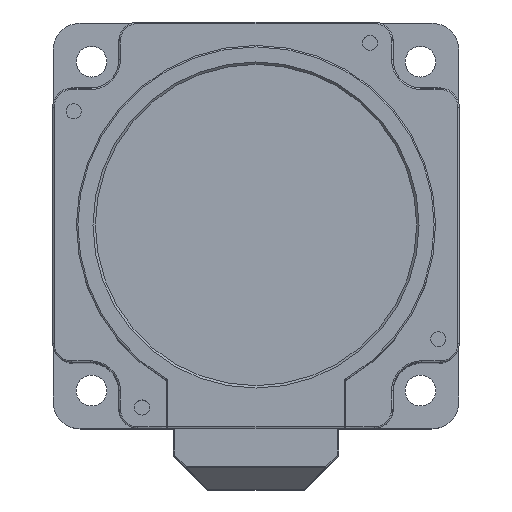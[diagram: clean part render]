
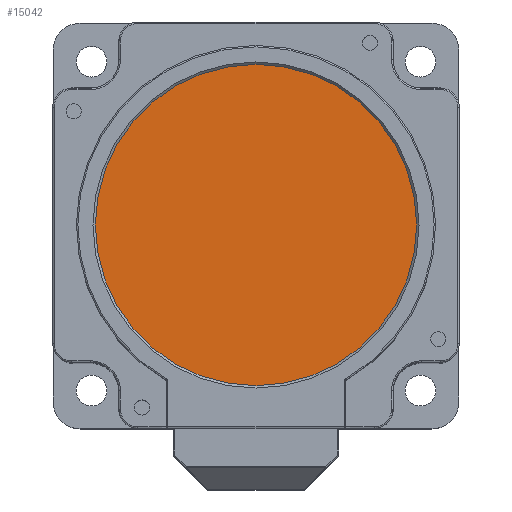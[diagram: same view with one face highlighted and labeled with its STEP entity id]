
A CAD part, top view. The second image highlights one B-rep face of the part: STEP entity #15042.
In plain terms, the highlighted planar face has unit normal (0, 0, 1).
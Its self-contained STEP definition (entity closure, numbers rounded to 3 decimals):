
#237 = DIRECTION ( 'NONE',  ( 1., 0., 0. ) ) ;
#2305 = VERTEX_POINT ( 'NONE', #2611 ) ;
#2611 = CARTESIAN_POINT ( 'NONE',  ( 34., 0., 25.5 ) ) ;
#4893 = DIRECTION ( 'NONE',  ( 0., 0., 1. ) ) ;
#5353 = ORIENTED_EDGE ( 'NONE', *, *, #15187, .T. ) ;
#7100 = AXIS2_PLACEMENT_3D ( 'NONE', #12142, #4893, #237 ) ;
#7297 = AXIS2_PLACEMENT_3D ( 'NONE', #13007, #8406, #11898 ) ;
#8406 = DIRECTION ( 'NONE',  ( 0., 0., 1. ) ) ;
#9182 = EDGE_LOOP ( 'NONE', ( #5353 ) ) ;
#9807 = CIRCLE ( 'NONE', #7100, 34. ) ;
#10934 = FACE_OUTER_BOUND ( 'NONE', #9182, .T. ) ;
#11898 = DIRECTION ( 'NONE',  ( 1., 0., 0. ) ) ;
#12142 = CARTESIAN_POINT ( 'NONE',  ( 0., 0., 25.5 ) ) ;
#13007 = CARTESIAN_POINT ( 'NONE',  ( 0., 0., 25.5 ) ) ;
#13168 = PLANE ( 'NONE',  #7297 ) ;
#15042 = ADVANCED_FACE ( 'NONE', ( #10934 ), #13168, .T. ) ;
#15187 = EDGE_CURVE ( 'NONE', #2305, #2305, #9807, .T. ) ;
